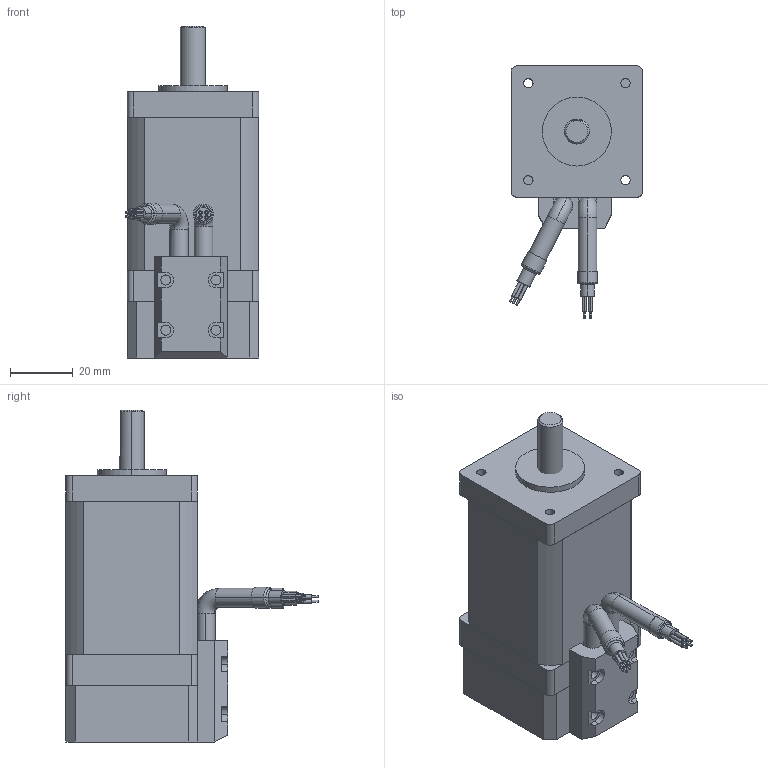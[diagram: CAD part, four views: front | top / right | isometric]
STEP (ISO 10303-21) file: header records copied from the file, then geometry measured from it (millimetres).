
FILE_DESCRIPTION (( 'STEP AP214' ), '1' );
FILE_NAME ('SPS4203EC.STEP', '2021-07-14T05:59:51', ( 'MM' ), ( 'Microsoft' ), 'SwSTEP 2.0', 'SolidWorks 2020', '' );
FILE_SCHEMA (( 'AUTOMOTIVE_DESIGN' ));
Length unit declared in the file: millimetre
Products named in the file (1): SPS4203EC
Bounding box: 42.58 x 80.5 x 106 mm (x, y, z)
Volume: 127834.5 mm3; surface area: 33998.6 mm2
Topology: 5 solids, 5 shells, 280 faces, 714 edges, 471 vertices
Faces by surface type: cylinder 135, plane 130, torus 12, cone 3
Entity records: 9079 total; most frequent: DIRECTION 1572, CARTESIAN_POINT 1550, ORIENTED_EDGE 1428, EDGE_CURVE 714, AXIS2_PLACEMENT_3D 587, VERTEX_POINT 471, VECTOR 398, LINE 398
